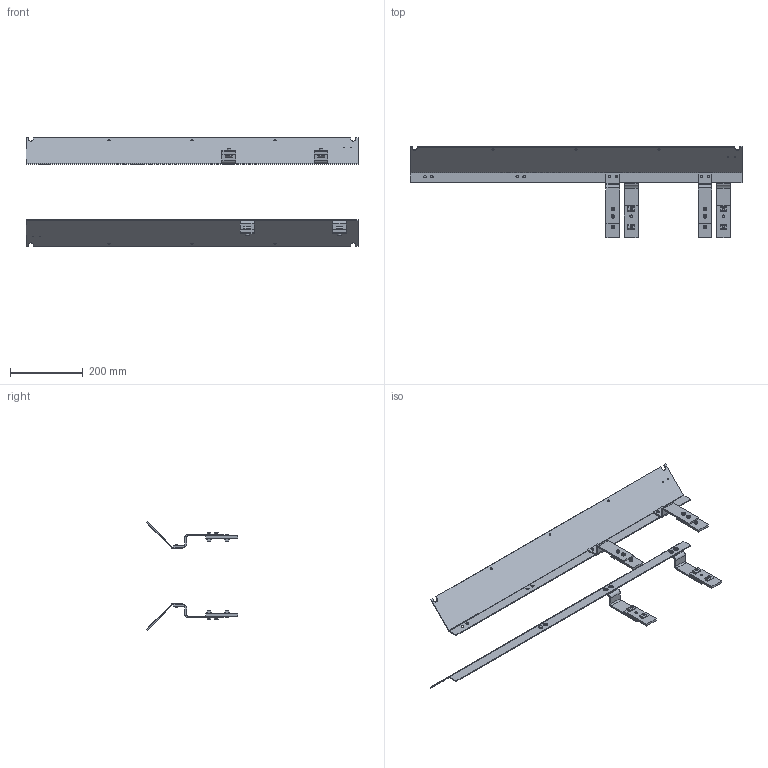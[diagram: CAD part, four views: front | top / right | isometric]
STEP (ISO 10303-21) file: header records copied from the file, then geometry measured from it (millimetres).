
FILE_DESCRIPTION((''),'2;1');
FILE_NAME('38M503_ASM','2018-01-19T',('james.horst'),(''),'PRO/ENGINEER BY PARAMETRIC TECHNOLOGY CORPORATION, 2012420','PRO/ENGINEER BY PARAMETRIC TECHNOLOGY CORPORATION, 2012420','');
FILE_SCHEMA(('CONFIG_CONTROL_DESIGN'));
Length unit declared in the file: inch
Products named in the file (11): 300695M; 301279; 301273; 950610M; 950616M_1; 950620M; 639971M; 930508M; 301285_ASM_ASM; 301282_ASM_ASM; 38M503_ASM
Assembly tree (16 placements, depth 4):
  38M503_ASM
    301282_ASM_ASM
      300695M  x2
      301285_ASM_ASM  x4
        301279
        301273
        950610M
        950616M_1
        950620M
        639971M
        930508M
Bounding box: 914.4 x 251.15 x 298.42 mm (x, y, z)
Volume: 833846.3 mm3; surface area: 589797 mm2
Topology: 38 solids, 62 shells, 860 faces, 2132 edges, 1392 vertices
Faces by surface type: plane 416, cylinder 324, cone 120
Entity records: 6358 total; most frequent: DIRECTION 1152, CARTESIAN_POINT 1116, ORIENTED_EDGE 940, EDGE_CURVE 482, AXIS2_PLACEMENT_3D 432, VERTEX_POINT 314, VECTOR 288, LINE 288
